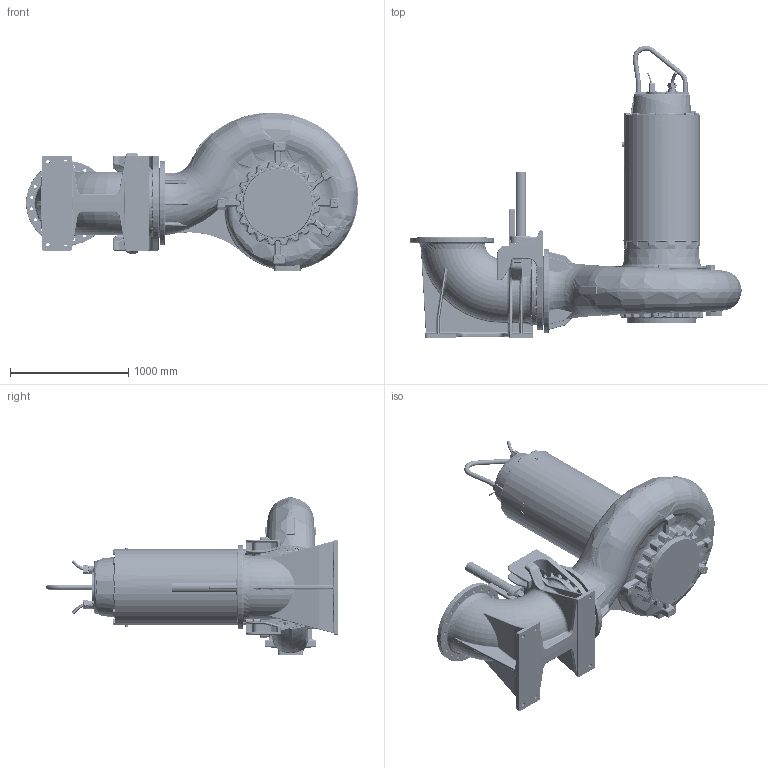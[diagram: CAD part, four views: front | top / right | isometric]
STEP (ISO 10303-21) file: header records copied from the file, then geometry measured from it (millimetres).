
FILE_DESCRIPTION (( 'STEP AP214' ), '1' );
FILE_NAME ('PE6_XFP500U-CH3_WET_A_NG2.STEP', '2017-03-28T09:39:47', ( '' ), ( '' ), 'SwSTEP 2.0', 'SolidWorks 2017', '' );
FILE_SCHEMA (( 'AUTOMOTIVE_DESIGN' ));
Length unit declared in the file: millimetre
Products named in the file (1): PE6_XFP500U-CH3_WET_A_NG2
Bounding box: 2801.98 x 2466.25 x 1338.67 mm (x, y, z)
Volume: 1323709055.6 mm3; surface area: 16274451.3 mm2
Topology: 4 solids, 17 shells, 5807 faces, 14075 edges, 8136 vertices
Faces by surface type: bspline 1728, cylinder 1500, plane 1168, torus 731, cone 481, sphere 199
Entity records: 357366 total; most frequent: CARTESIAN_POINT 172066, ORIENTED_EDGE 27550, DIRECTION 22920, EDGE_CURVE 13775, AXIS2_PLACEMENT_3D 9422, VERTEX_POINT 8131, EDGE_LOOP 6130, UNCERTAINTY_MEASURE_WITH_UNIT 5813
